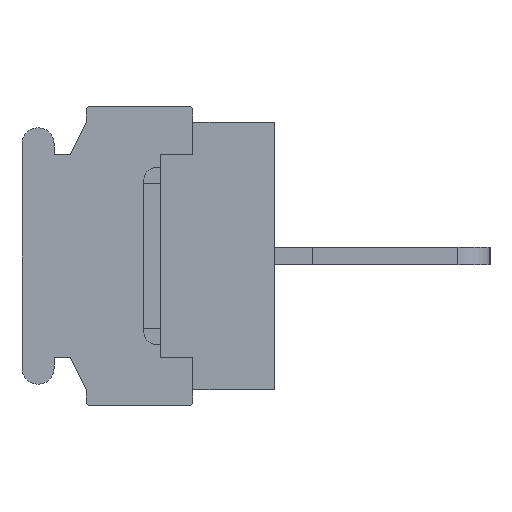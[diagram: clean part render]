
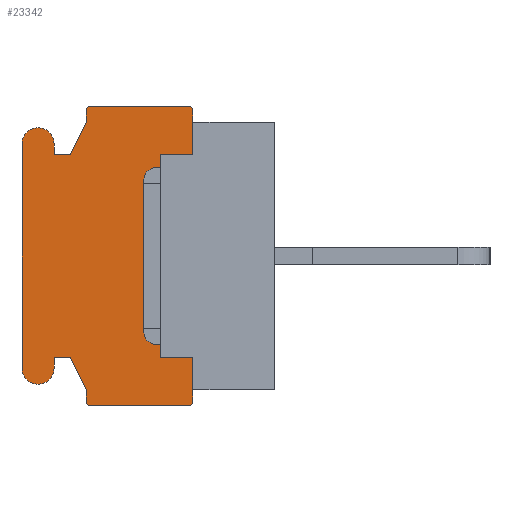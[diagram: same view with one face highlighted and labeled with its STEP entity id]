
A CAD part, left-side view. The second image highlights one B-rep face of the part: STEP entity #23342.
In plain terms, the highlighted planar face has unit normal (-1, 0, 0).
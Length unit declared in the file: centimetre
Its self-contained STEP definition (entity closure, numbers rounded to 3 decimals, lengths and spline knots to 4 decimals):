
#1362=PLANE('',#38015);
#2111=VECTOR('',#24699,1.);
#3566=VECTOR('',#27841,1.);
#3567=VECTOR('',#27842,1.);
#3568=VECTOR('',#27845,1.);
#3569=VECTOR('',#27848,1.);
#3570=VECTOR('',#27849,1.);
#3571=VECTOR('',#27850,1.);
#3572=VECTOR('',#27851,1.);
#3573=VECTOR('',#27854,1.);
#3574=VECTOR('',#27857,1.);
#3575=VECTOR('',#27858,1.);
#3576=VECTOR('',#27859,1.);
#3577=VECTOR('',#27860,1.);
#3578=VECTOR('',#27863,1.);
#3579=VECTOR('',#27866,1.);
#3580=VECTOR('',#27867,1.);
#3581=VECTOR('',#27868,1.);
#3582=VECTOR('',#27869,1.);
#4611=LINE('',#30605,#2111);
#6066=LINE('',#34992,#3566);
#6067=LINE('',#34994,#3567);
#6068=LINE('',#34998,#3568);
#6069=LINE('',#35002,#3569);
#6070=LINE('',#35004,#3570);
#6071=LINE('',#35006,#3571);
#6072=LINE('',#35008,#3572);
#6073=LINE('',#35012,#3573);
#6074=LINE('',#35016,#3574);
#6075=LINE('',#35018,#3575);
#6076=LINE('',#35020,#3576);
#6077=LINE('',#35022,#3577);
#6078=LINE('',#35026,#3578);
#6079=LINE('',#35030,#3579);
#6080=LINE('',#35031,#3580);
#6081=LINE('',#35033,#3581);
#6082=LINE('',#35034,#3582);
#7050=VERTEX_POINT('',#30606);
#7051=VERTEX_POINT('',#30607);
#7158=VERTEX_POINT('',#30905);
#7199=VERTEX_POINT('',#30992);
#8408=VERTEX_POINT('',#34993);
#8409=VERTEX_POINT('',#34995);
#8410=VERTEX_POINT('',#34997);
#8411=VERTEX_POINT('',#34999);
#8412=VERTEX_POINT('',#35001);
#8413=VERTEX_POINT('',#35003);
#8414=VERTEX_POINT('',#35005);
#8415=VERTEX_POINT('',#35007);
#8416=VERTEX_POINT('',#35009);
#8417=VERTEX_POINT('',#35011);
#8418=VERTEX_POINT('',#35013);
#8419=VERTEX_POINT('',#35015);
#8420=VERTEX_POINT('',#35017);
#8421=VERTEX_POINT('',#35019);
#8422=VERTEX_POINT('',#35021);
#8423=VERTEX_POINT('',#35023);
#8424=VERTEX_POINT('',#35025);
#8425=VERTEX_POINT('',#35027);
#8426=VERTEX_POINT('',#35029);
#8427=VERTEX_POINT('',#35032);
#9216=CIRCLE('',#38016,0.02);
#9217=CIRCLE('',#38017,0.02);
#9218=CIRCLE('',#38018,0.075);
#9219=CIRCLE('',#38019,0.075);
#9220=CIRCLE('',#38020,0.02);
#9221=CIRCLE('',#38021,0.02);
#10024=EDGE_CURVE('',#7050,#7051,#4611,.T.);
#12075=EDGE_CURVE('',#8408,#7158,#6066,.T.);
#12076=EDGE_CURVE('',#8409,#7158,#6067,.T.);
#12077=EDGE_CURVE('',#8410,#8409,#9216,.T.);
#12078=EDGE_CURVE('',#8411,#8410,#6068,.T.);
#12079=EDGE_CURVE('',#8412,#8411,#9217,.T.);
#12080=EDGE_CURVE('',#8413,#8412,#6069,.T.);
#12081=EDGE_CURVE('',#8414,#8413,#6070,.T.);
#12082=EDGE_CURVE('',#8415,#8414,#6071,.T.);
#12083=EDGE_CURVE('',#8416,#8415,#6072,.T.);
#12084=EDGE_CURVE('',#8417,#8416,#9218,.T.);
#12085=EDGE_CURVE('',#8418,#8417,#6073,.T.);
#12086=EDGE_CURVE('',#8419,#8418,#9219,.T.);
#12087=EDGE_CURVE('',#8420,#8419,#6074,.T.);
#12088=EDGE_CURVE('',#8421,#8420,#6075,.T.);
#12089=EDGE_CURVE('',#8422,#8421,#6076,.T.);
#12090=EDGE_CURVE('',#8423,#8422,#6077,.T.);
#12091=EDGE_CURVE('',#8424,#8423,#9220,.T.);
#12092=EDGE_CURVE('',#8425,#8424,#6078,.T.);
#12093=EDGE_CURVE('',#8426,#8425,#9221,.T.);
#12094=EDGE_CURVE('',#7199,#8426,#6079,.T.);
#12095=EDGE_CURVE('',#7199,#8427,#6080,.T.);
#12096=EDGE_CURVE('',#8427,#7050,#6081,.T.);
#12097=EDGE_CURVE('',#7051,#8408,#6082,.T.);
#18301=ORIENTED_EDGE('',*,*,#12075,.T.);
#18302=ORIENTED_EDGE('',*,*,#12076,.F.);
#18303=ORIENTED_EDGE('',*,*,#12077,.F.);
#18304=ORIENTED_EDGE('',*,*,#12078,.F.);
#18305=ORIENTED_EDGE('',*,*,#12079,.F.);
#18306=ORIENTED_EDGE('',*,*,#12080,.F.);
#18307=ORIENTED_EDGE('',*,*,#12081,.F.);
#18308=ORIENTED_EDGE('',*,*,#12082,.F.);
#18309=ORIENTED_EDGE('',*,*,#12083,.F.);
#18310=ORIENTED_EDGE('',*,*,#12084,.F.);
#18311=ORIENTED_EDGE('',*,*,#12085,.F.);
#18312=ORIENTED_EDGE('',*,*,#12086,.F.);
#18313=ORIENTED_EDGE('',*,*,#12087,.F.);
#18314=ORIENTED_EDGE('',*,*,#12088,.F.);
#18315=ORIENTED_EDGE('',*,*,#12089,.F.);
#18316=ORIENTED_EDGE('',*,*,#12090,.F.);
#18317=ORIENTED_EDGE('',*,*,#12091,.F.);
#18318=ORIENTED_EDGE('',*,*,#12092,.F.);
#18319=ORIENTED_EDGE('',*,*,#12093,.F.);
#18320=ORIENTED_EDGE('',*,*,#12094,.F.);
#18321=ORIENTED_EDGE('',*,*,#12095,.T.);
#18322=ORIENTED_EDGE('',*,*,#12096,.T.);
#18323=ORIENTED_EDGE('',*,*,#10024,.T.);
#18324=ORIENTED_EDGE('',*,*,#12097,.T.);
#20640=EDGE_LOOP('',(#18301,#18302,#18303,#18304,#18305,#18306,#18307,#18308,
#18309,#18310,#18311,#18312,#18313,#18314,#18315,#18316,#18317,#18318,#18319,
#18320,#18321,#18322,#18323,#18324));
#22054=FACE_BOUND('',#20640,.T.);
#23342=ADVANCED_FACE('',(#22054),#1362,.F.);
#24699=DIRECTION('',(0.,0.,1.));
#27840=DIRECTION('',(1.,0.,0.));
#27841=DIRECTION('',(0.,0.,1.));
#27842=DIRECTION('',(0.,0.,-1.));
#27843=DIRECTION('',(1.,0.,0.));
#27844=DIRECTION('',(0.,0.,-0.02));
#27845=DIRECTION('',(0.,-1.,0.));
#27846=DIRECTION('',(1.,0.,0.));
#27847=DIRECTION('',(0.,0.,-0.02));
#27848=DIRECTION('',(0.,0.,1.));
#27849=DIRECTION('',(0.,-0.447,0.894));
#27850=DIRECTION('',(0.,-1.,0.));
#27851=DIRECTION('',(0.,0.,-1.));
#27852=DIRECTION('',(1.,0.,0.));
#27853=DIRECTION('',(0.,0.,-0.075));
#27854=DIRECTION('',(0.,0.,1.));
#27855=DIRECTION('',(1.,0.,0.));
#27856=DIRECTION('',(0.,0.,-0.075));
#27857=DIRECTION('',(0.,0.,-1.));
#27858=DIRECTION('',(0.,1.,0.));
#27859=DIRECTION('',(0.,0.447,0.894));
#27860=DIRECTION('',(0.,0.,1.));
#27861=DIRECTION('',(1.,0.,0.));
#27862=DIRECTION('',(0.,0.,-0.02));
#27863=DIRECTION('',(0.,1.,0.));
#27864=DIRECTION('',(1.,0.,0.));
#27865=DIRECTION('',(0.,0.,-0.02));
#27866=DIRECTION('',(0.,0.,-1.));
#27867=DIRECTION('',(0.,0.,1.));
#27868=DIRECTION('',(0.,1.,0.));
#27869=DIRECTION('',(0.,-1.,0.));
#30605=CARTESIAN_POINT('',(-0.762,0.53,0.));
#30606=CARTESIAN_POINT('',(-0.762,0.53,-0.475));
#30607=CARTESIAN_POINT('',(-0.762,0.53,0.475));
#30905=CARTESIAN_POINT('',(-0.762,0.38,0.625));
#30992=CARTESIAN_POINT('',(-0.762,0.38,-0.625));
#34991=CARTESIAN_POINT('',(-0.762,0.6059,0.));
#34992=CARTESIAN_POINT('',(-0.762,0.38,0.275));
#34993=CARTESIAN_POINT('',(-0.762,0.38,0.475));
#34994=CARTESIAN_POINT('',(-0.762,0.38,0.68));
#34995=CARTESIAN_POINT('',(-0.762,0.38,0.68));
#34996=CARTESIAN_POINT('',(-0.762,0.4,0.68));
#34997=CARTESIAN_POINT('',(-0.762,0.4,0.7));
#34998=CARTESIAN_POINT('',(-0.762,0.86,0.7));
#34999=CARTESIAN_POINT('',(-0.762,0.86,0.7));
#35000=CARTESIAN_POINT('',(-0.762,0.86,0.68));
#35001=CARTESIAN_POINT('',(-0.762,0.88,0.68));
#35002=CARTESIAN_POINT('',(-0.762,0.88,0.625));
#35003=CARTESIAN_POINT('',(-0.762,0.88,0.625));
#35004=CARTESIAN_POINT('',(-0.762,0.955,0.475));
#35005=CARTESIAN_POINT('',(-0.762,0.955,0.475));
#35006=CARTESIAN_POINT('',(-0.762,1.03,0.475));
#35007=CARTESIAN_POINT('',(-0.762,1.03,0.475));
#35008=CARTESIAN_POINT('',(-0.762,1.03,0.525));
#35009=CARTESIAN_POINT('',(-0.762,1.03,0.525));
#35010=CARTESIAN_POINT('',(-0.762,1.105,0.525));
#35011=CARTESIAN_POINT('',(-0.762,1.18,0.525));
#35012=CARTESIAN_POINT('',(-0.762,1.18,-0.525));
#35013=CARTESIAN_POINT('',(-0.762,1.18,-0.525));
#35014=CARTESIAN_POINT('',(-0.762,1.105,-0.525));
#35015=CARTESIAN_POINT('',(-0.762,1.03,-0.525));
#35016=CARTESIAN_POINT('',(-0.762,1.03,-0.475));
#35017=CARTESIAN_POINT('',(-0.762,1.03,-0.475));
#35018=CARTESIAN_POINT('',(-0.762,0.955,-0.475));
#35019=CARTESIAN_POINT('',(-0.762,0.955,-0.475));
#35020=CARTESIAN_POINT('',(-0.762,0.88,-0.625));
#35021=CARTESIAN_POINT('',(-0.762,0.88,-0.625));
#35022=CARTESIAN_POINT('',(-0.762,0.88,-0.68));
#35023=CARTESIAN_POINT('',(-0.762,0.88,-0.68));
#35024=CARTESIAN_POINT('',(-0.762,0.86,-0.68));
#35025=CARTESIAN_POINT('',(-0.762,0.86,-0.7));
#35026=CARTESIAN_POINT('',(-0.762,0.4,-0.7));
#35027=CARTESIAN_POINT('',(-0.762,0.4,-0.7));
#35028=CARTESIAN_POINT('',(-0.762,0.4,-0.68));
#35029=CARTESIAN_POINT('',(-0.762,0.38,-0.68));
#35030=CARTESIAN_POINT('',(-0.762,0.38,-0.625));
#35031=CARTESIAN_POINT('',(-0.762,0.38,-0.275));
#35032=CARTESIAN_POINT('',(-0.762,0.38,-0.475));
#35033=CARTESIAN_POINT('',(-0.762,0.5304,-0.475));
#35034=CARTESIAN_POINT('',(-0.762,0.5304,0.475));
#38015=AXIS2_PLACEMENT_3D('',#34991,#27840,$);
#38016=AXIS2_PLACEMENT_3D('',#34996,#27843,#27844);
#38017=AXIS2_PLACEMENT_3D('',#35000,#27846,#27847);
#38018=AXIS2_PLACEMENT_3D('',#35010,#27852,#27853);
#38019=AXIS2_PLACEMENT_3D('',#35014,#27855,#27856);
#38020=AXIS2_PLACEMENT_3D('',#35024,#27861,#27862);
#38021=AXIS2_PLACEMENT_3D('',#35028,#27864,#27865);
